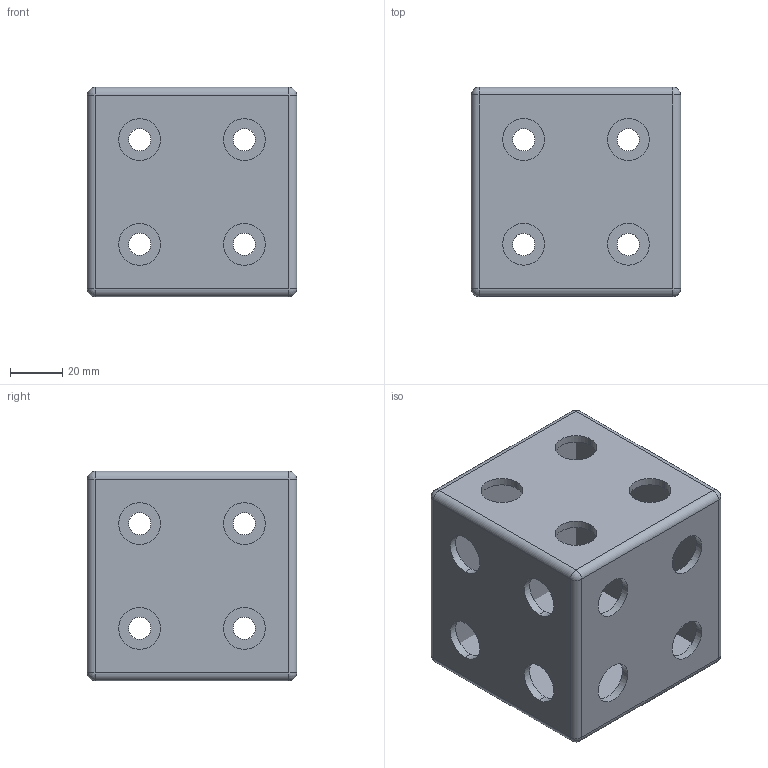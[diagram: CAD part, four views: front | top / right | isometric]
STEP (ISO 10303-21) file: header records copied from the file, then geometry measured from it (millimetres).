
FILE_DESCRIPTION (( 'STEP AP214' ), '1' );
FILE_NAME ('8080-3.STEP', '2020-06-22T06:09:14', ( '' ), ( '' ), 'SwSTEP 2.0', 'SolidWorks 2018', '' );
FILE_SCHEMA (( 'AUTOMOTIVE_DESIGN' ));
Length unit declared in the file: millimetre
Products named in the file (3): 8080-3.01; 8080-3; 8080-3.02
Assembly tree (6 placements, depth 2):
  8080-3
    8080-3.01  x3
    8080-3.02  x3
Bounding box: 80 x 80 x 80 mm (x, y, z)
Volume: 99352.6 mm3; surface area: 75182.2 mm2
Topology: 6 solids, 6 shells, 114 faces, 306 edges, 180 vertices
Faces by surface type: cylinder 78, sphere 24, plane 12
Entity records: 1332 total; most frequent: DIRECTION 248, CARTESIAN_POINT 201, ORIENTED_EDGE 188, AXIS2_PLACEMENT_3D 107, EDGE_CURVE 94, VERTEX_POINT 60, CIRCLE 60, EDGE_LOOP 56
